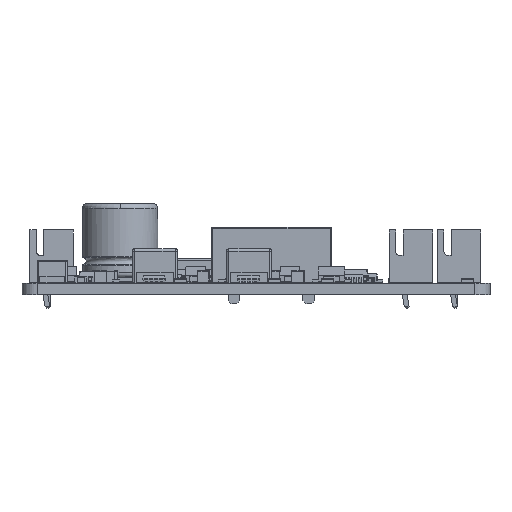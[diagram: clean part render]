
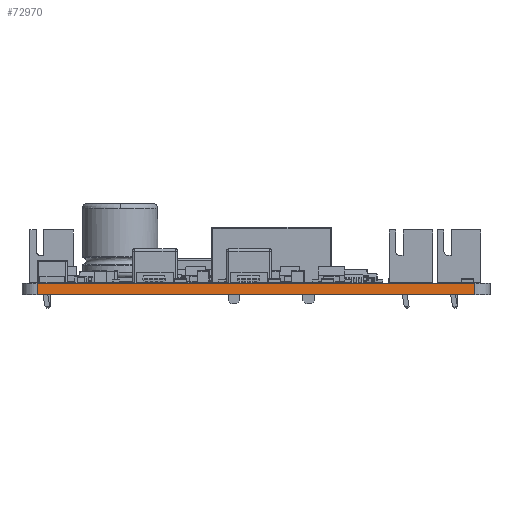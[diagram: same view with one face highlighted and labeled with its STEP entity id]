
A CAD part, left-side view. The second image highlights one B-rep face of the part: STEP entity #72970.
In plain terms, the highlighted planar face has unit normal (-1, 0, 0).
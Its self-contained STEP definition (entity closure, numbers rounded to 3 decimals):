
#71627 = VERTEX_POINT('',#71628);
#71628 = CARTESIAN_POINT('',(100.,-102.,0.));
#71635 = EDGE_CURVE('',#71636,#71627,#71638,.T.);
#71636 = VERTEX_POINT('',#71637);
#71637 = CARTESIAN_POINT('',(100.,-160.,0.));
#71638 = LINE('',#71639,#71640);
#71639 = CARTESIAN_POINT('',(100.,-160.,0.));
#71640 = VECTOR('',#71641,1.);
#71641 = DIRECTION('',(0.,1.,0.));
#72285 = VERTEX_POINT('',#72286);
#72286 = CARTESIAN_POINT('',(100.,-102.,1.51));
#72293 = EDGE_CURVE('',#72294,#72285,#72296,.T.);
#72294 = VERTEX_POINT('',#72295);
#72295 = CARTESIAN_POINT('',(100.,-160.,1.51));
#72296 = LINE('',#72297,#72298);
#72297 = CARTESIAN_POINT('',(100.,-160.,1.51));
#72298 = VECTOR('',#72299,1.);
#72299 = DIRECTION('',(0.,1.,0.));
#72940 = EDGE_CURVE('',#71627,#72285,#72941,.T.);
#72941 = LINE('',#72942,#72943);
#72942 = CARTESIAN_POINT('',(100.,-102.,0.));
#72943 = VECTOR('',#72944,1.);
#72944 = DIRECTION('',(0.,0.,1.));
#72970 = ADVANCED_FACE('',(#72971),#72982,.T.);
#72971 = FACE_BOUND('',#72972,.T.);
#72972 = EDGE_LOOP('',(#72973,#72979,#72980,#72981));
#72973 = ORIENTED_EDGE('',*,*,#72974,.T.);
#72974 = EDGE_CURVE('',#71636,#72294,#72975,.T.);
#72975 = LINE('',#72976,#72977);
#72976 = CARTESIAN_POINT('',(100.,-160.,0.));
#72977 = VECTOR('',#72978,1.);
#72978 = DIRECTION('',(0.,0.,1.));
#72979 = ORIENTED_EDGE('',*,*,#72293,.T.);
#72980 = ORIENTED_EDGE('',*,*,#72940,.F.);
#72981 = ORIENTED_EDGE('',*,*,#71635,.F.);
#72982 = PLANE('',#72983);
#72983 = AXIS2_PLACEMENT_3D('',#72984,#72985,#72986);
#72984 = CARTESIAN_POINT('',(100.,-160.,0.));
#72985 = DIRECTION('',(-1.,0.,0.));
#72986 = DIRECTION('',(0.,1.,0.));
